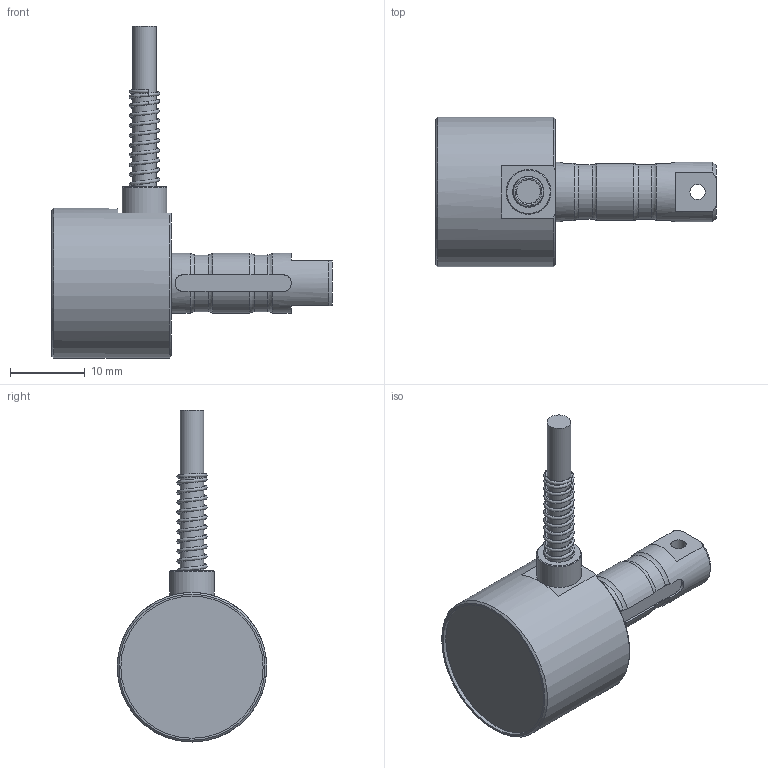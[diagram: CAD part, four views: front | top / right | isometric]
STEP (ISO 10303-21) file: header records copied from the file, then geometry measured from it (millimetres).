
FILE_DESCRIPTION(/* description */ ('Alibre Inc.'),/* implementation_level */ '2;1');
FILE_NAME(/* name */ 'export0',/* time_stamp */ '2016-07-11T12:48:16+02:00',/* author */ (''),/* organization */ (''),/* preprocessor_version */ 'ST-DEVELOPER v14',/* originating_system */ 'Alibre',/* authorisation */ '');
FILE_SCHEMA (('CONFIG_CONTROL_DESIGN'));
Length unit declared in the file: centimetre
Products named in the file (6): ID_1
Bounding box: 37.5 x 20 x 44.37 mm (x, y, z)
Volume: 6010 mm3; surface area: 3016 mm2
Topology: 4 solids, 4 shells, 85 faces, 209 edges, 135 vertices
Faces by surface type: plane 29, cylinder 26, bspline 12, torus 10, cone 8
Full cylindrical faces by diameter (mm): 2.05 x1, 3.15 x1, 3.3 x1, 4.2 x1, 5 x1, 5.1 x1, 6 x1, 8 x2, 19 x1, 20 x1
Entity records: 14934 total; most frequent: CARTESIAN_POINT 12663, ORIENTED_EDGE 376, DIRECTION 277, EDGE_CURVE 188, VERTEX_POINT 132, AXIS2_PLACEMENT_3D 128, EDGE_LOOP 110, FACE_BOUND 110
